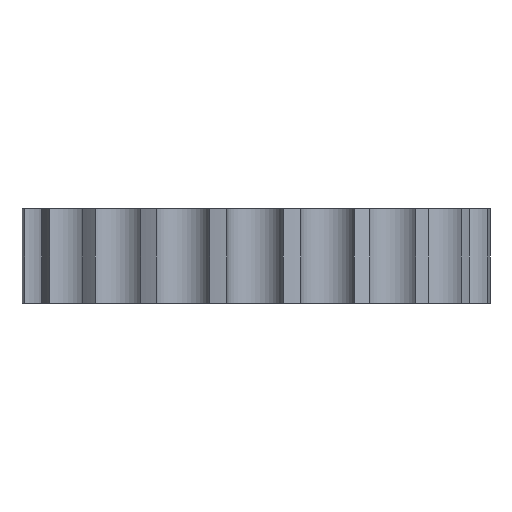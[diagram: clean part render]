
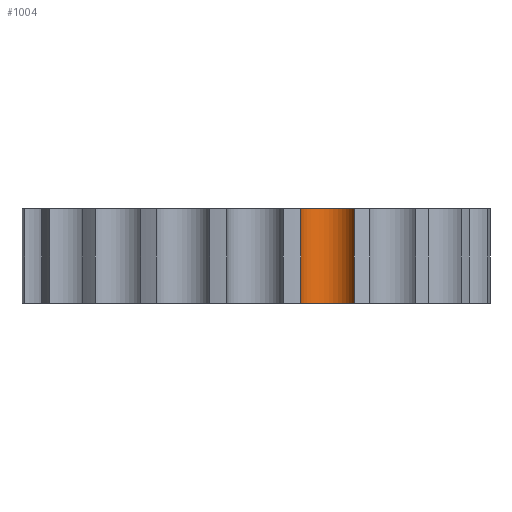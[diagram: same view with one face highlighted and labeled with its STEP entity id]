
A CAD part, front view. The second image highlights one B-rep face of the part: STEP entity #1004.
In plain terms, the highlighted cylindrical face has radius 1.5 mm (diameter 3 mm), a partial arc.
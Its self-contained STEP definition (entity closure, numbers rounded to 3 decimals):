
#68=FACE_OUTER_BOUND('',#123,.T.);
#123=EDGE_LOOP('',(#815,#816,#817,#818));
#177=CIRCLE('',#1083,1.5);
#209=CIRCLE('',#1143,1.5);
#281=LINE('',#2901,#329);
#282=LINE('',#2905,#330);
#329=VECTOR('',#1425,10.);
#330=VECTOR('',#1430,10.);
#401=VERTEX_POINT('',#2783);
#402=VERTEX_POINT('',#2785);
#433=VERTEX_POINT('',#2900);
#434=VERTEX_POINT('',#2904);
#517=EDGE_CURVE('',#402,#401,#177,.T.);
#574=EDGE_CURVE('',#433,#402,#281,.T.);
#576=EDGE_CURVE('',#434,#401,#282,.T.);
#577=EDGE_CURVE('',#434,#433,#209,.T.);
#815=ORIENTED_EDGE('',*,*,#517,.T.);
#816=ORIENTED_EDGE('',*,*,#576,.F.);
#817=ORIENTED_EDGE('',*,*,#577,.T.);
#818=ORIENTED_EDGE('',*,*,#574,.T.);
#951=CYLINDRICAL_SURFACE('',#1142,1.5);
#1004=ADVANCED_FACE('',(#68),#951,.F.);
#1083=AXIS2_PLACEMENT_3D('',#2786,#1283,#1284);
#1142=AXIS2_PLACEMENT_3D('',#2903,#1428,#1429);
#1143=AXIS2_PLACEMENT_3D('',#2906,#1431,#1432);
#1283=DIRECTION('center_axis',(0.,0.,
1.));
#1284=DIRECTION('ref_axis',(-0.969,-0.248,0.));
#1425=DIRECTION('',(0.,0.,1.));
#1428=DIRECTION('center_axis',(0.,0.,
1.));
#1429=DIRECTION('ref_axis',(-0.969,-0.248,0.));
#1430=DIRECTION('',(0.,0.,1.));
#1431=DIRECTION('center_axis',(0.,0.,
-1.));
#1432=DIRECTION('ref_axis',(-0.969,-0.248,0.));
#2783=CARTESIAN_POINT('',(2.366,-12.274,4.005));
#2785=CARTESIAN_POINT('',(5.217,-11.359,4.005));
#2786=CARTESIAN_POINT('Origin',(3.819,-11.902,4.005));
#2900=CARTESIAN_POINT('',(5.217,-11.359,-0.995));
#2901=CARTESIAN_POINT('',(5.217,-11.359,-0.995));
#2903=CARTESIAN_POINT('Origin',(3.819,-11.902,-0.995));
#2904=CARTESIAN_POINT('',(2.366,-12.274,-0.995));
#2905=CARTESIAN_POINT('',(2.366,-12.274,-0.995));
#2906=CARTESIAN_POINT('Origin',(3.819,-11.902,-0.995));
